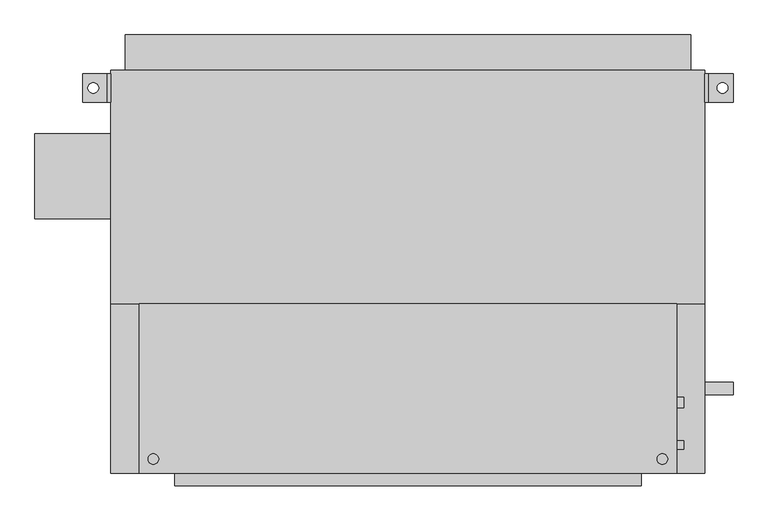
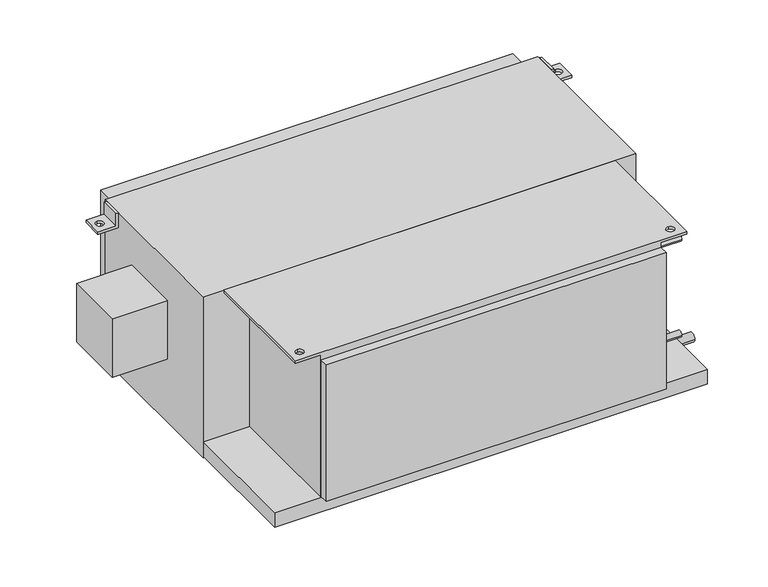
"""IFC4 building model written with IfcOpenShell, lengths in millimetres: proxy geometry, Concealed_High_Capacity_Horizontal_Fan_Coil_Unit_With_Plenum_-_42DCA_-_CARRIER_-_4-Pipe_RH_2022 : Size 14 - 277v/60Hz/1Ph - 6/2 Coil."""

from ifc_helpers import new_model, si_unit, point, frame, frame_2d, origin, place, context, project, spatial, polyline, circle_curve, trimmed, segment, composite_curve, outline, extrude, source, transform, mapped, element, save
from ifc_brep_helpers import plane_surface, revolved_surface, advanced_brep


def mechanical_equipment_ea229e45(model_context):
    return source(origin(), model_context, "Body", "SolidModel", [
        advanced_brep(
        [(-330.2, -85.725, 0.0), (-330.2, -390.525, 0.0), (635.0, -390.525, 0.0), (635.0, -85.725, 0.0), (-304.8, -374.65, 0.0), (-304.8, -355.6, 0.0), (609.6, -374.65, 0.0), (609.6, -355.6, 0.0), (571.5, -85.725, -377.825), (571.5, -390.525, -377.825), (-266.7, -390.525, -377.825), (-266.7, -85.725, -377.825), (-266.7, -85.725, -6.35), (-330.2, -85.725, -6.35), (635.0, -85.725, -6.35), (571.5, -85.725, -6.35), (-266.7, -390.525, -6.35), (571.5, -390.525, -6.35), (635.0, -390.525, -6.35), (-330.2, -390.525, -6.35), (-304.8, -355.6, -6.35), (-304.8, -374.65, -6.35), (609.6, -355.6, -6.35), (609.6, -374.65, -6.35)],
        [
            (0, 1),
            (1, 2),
            (2, 3),
            (3, 0),
            (4, 5, circle_curve(frame((-304.8, -365.125, 0.0), z_axis=(0.0, 0.0, -1.0), x_axis=(0.0, 1.0, 0.0)), 9.525)),
            (5, 4, circle_curve(frame((-304.8, -365.125, 0.0), z_axis=(0.0, 0.0, -1.0), x_axis=(0.0, 1.0, 0.0)), 9.525)),
            (6, 7, circle_curve(frame((609.6, -365.125, 0.0), z_axis=(0.0, 0.0, -1.0), x_axis=(0.0, 1.0, 0.0)), 9.525)),
            (7, 6, circle_curve(frame((609.6, -365.125, 0.0), z_axis=(0.0, 0.0, -1.0), x_axis=(0.0, 1.0, 0.0)), 9.525)),
            (8, 9),
            (9, 10),
            (10, 11),
            (11, 8),
            (11, 12),
            (12, 13),
            (13, 0),
            (3, 14),
            (14, 15),
            (15, 8),
            (10, 16),
            (16, 12),
            (9, 17),
            (17, 18),
            (18, 2),
            (1, 19),
            (19, 16),
            (15, 17),
            (19, 13),
            (20, 21, circle_curve(frame((-304.8, -365.125, -6.35), z_axis=(0.0, 0.0, 1.0), x_axis=(0.0, 1.0, 0.0)), 9.525)),
            (21, 20, circle_curve(frame((-304.8, -365.125, -6.35), z_axis=(0.0, 0.0, 1.0), x_axis=(0.0, 1.0, 0.0)), 9.525)),
            (14, 18),
            (22, 23, circle_curve(frame((609.6, -365.125, -6.35), z_axis=(0.0, 0.0, 1.0), x_axis=(0.0, 1.0, 0.0)), 9.525)),
            (23, 22, circle_curve(frame((609.6, -365.125, -6.35), z_axis=(0.0, 0.0, 1.0), x_axis=(0.0, 1.0, 0.0)), 9.525)),
            (4, 21),
            (20, 5),
            (6, 23),
            (22, 7),
        ],
        [
            plane_surface(frame((-266.7, -85.725, 0.0), z_axis=(0.0, 0.0, 1.0), x_axis=(-1.0, 0.0, 0.0))),
            plane_surface(frame((-266.7, -85.725, -377.825), z_axis=(0.0, 0.0, -1.0), x_axis=(1.0, 0.0, 0.0))),
            plane_surface(frame((571.5, -85.725, 0.0), z_axis=(0.0, 1.0, 0.0), x_axis=(0.0, 0.0, -1.0))),
            plane_surface(frame((-266.7, -85.725, 0.0), z_axis=(-1.0, 0.0, 0.0), x_axis=(0.0, 0.0, -1.0))),
            plane_surface(frame((-266.7, -390.525, 0.0), z_axis=(0.0, -1.0, 0.0), x_axis=(0.0, 0.0, -1.0))),
            plane_surface(frame((571.5, -390.525, 0.0), z_axis=(1.0, 0.0, 0.0), x_axis=(0.0, 0.0, -1.0))),
            plane_surface(frame((-330.2, -85.725, -6.35), z_axis=(0.0, 0.0, -1.0), x_axis=(0.0, 1.0, 0.0))),
            plane_surface(frame((-330.2, -85.725, 0.0), z_axis=(-1.0, 0.0, 0.0), x_axis=(0.0, 0.0, -1.0))),
            plane_surface(frame((635.0, -390.525, 0.0), z_axis=(1.0, 0.0, 0.0), x_axis=(0.0, 0.0, -1.0))),
            revolved_surface(polyline([(-304.8, -355.6, -6.35), (-304.8, -355.6, 0.0)]), (-304.8, -365.125, 0.0), (0.0, 0.0, -1.0)),
            revolved_surface(polyline([(609.6, -355.6, -6.35), (609.6, -355.6, 0.0)]), (609.6, -365.125, 0.0), (0.0, 0.0, -1.0)),
        ],
        [
            (0, [[1, 2, 3, 4], [5, 6], [7, 8]]),
            (1, [[9, 10, 11, 12]]),
            (2, [[-12, 13, 14, 15, -4, 16, 17, 18]]),
            (3, [[-11, 19, 20, -13]]),
            (4, [[-10, 21, 22, 23, -2, 24, 25, -19]]),
            (5, [[-9, -18, 26, -21]]),
            (6, [[-14, -20, -25, 27], [28, 29]]),
            (6, [[30, -22, -26, -17], [31, 32]]),
            (7, [[-27, -24, -1, -15]]),
            (8, [[-30, -16, -3, -23]]),
            (9, [[33, -28, 34, -5]]),
            (9, [[-33, -6, -34, -29]]),
            (10, [[35, -31, 36, -7]]),
            (10, [[-35, -8, -36, -32]]),
        ],
    ),
        advanced_brep(
        [(-381.0, 327.025, -38.1), (-431.8, 327.025, -38.1), (-431.8, 327.025, -31.75), (-387.35, 327.025, -31.75), (-387.35, 327.025, 0.0), (-381.0, 327.025, 0.0), (-381.0, 276.225, -38.1), (-381.0, 276.225, 0.0), (-387.35, 276.225, 0.0), (-387.35, 276.225, -31.75), (-431.8, 276.225, -31.75), (-431.8, 276.225, -38.1), (-412.75, 292.1, -38.1), (-412.75, 311.15, -38.1), (-412.75, 311.15, -31.75), (-412.75, 292.1, -31.75)],
        [
            (0, 1),
            (1, 2),
            (2, 3),
            (3, 4),
            (4, 5),
            (5, 0),
            (6, 7),
            (7, 8),
            (8, 9),
            (9, 10),
            (10, 11),
            (11, 6),
            (0, 6),
            (11, 1),
            (12, 13, circle_curve(frame((-412.75, 301.625, -38.1), z_axis=(0.0, 0.0, 1.0), x_axis=(0.0, -1.0, 0.0)), 9.525)),
            (13, 12, circle_curve(frame((-412.75, 301.625, -38.1), z_axis=(0.0, 0.0, 1.0), x_axis=(0.0, -1.0, 0.0)), 9.525)),
            (10, 2),
            (9, 3),
            (14, 15, circle_curve(frame((-412.75, 301.625, -31.75), z_axis=(0.0, 0.0, -1.0), x_axis=(0.0, -1.0, 0.0)), 9.525)),
            (15, 14, circle_curve(frame((-412.75, 301.625, -31.75), z_axis=(0.0, 0.0, -1.0), x_axis=(0.0, -1.0, 0.0)), 9.525)),
            (8, 4),
            (7, 5),
            (14, 13),
            (12, 15),
        ],
        [
            plane_surface(frame((-381.0, 327.025, -38.1), z_axis=(0.0, 1.0, 0.0), x_axis=(-1.0, 0.0, 0.0))),
            plane_surface(frame((-381.0, 276.225, -38.1), z_axis=(0.0, -1.0, 0.0), x_axis=(1.0, 0.0, 0.0))),
            plane_surface(frame((-381.0, 327.025, -38.1), z_axis=(0.0, 0.0, -1.0), x_axis=(0.0, -1.0, 0.0))),
            plane_surface(frame((-431.8, 327.025, -38.1), z_axis=(-1.0, 0.0, 0.0), x_axis=(0.0, -1.0, 0.0))),
            plane_surface(frame((-431.8, 327.025, -31.75), z_axis=(0.0, 0.0, 1.0), x_axis=(0.0, -1.0, 0.0))),
            plane_surface(frame((-387.35, 327.025, -31.75), z_axis=(-1.0, 0.0, 0.0), x_axis=(0.0, -1.0, 0.0))),
            plane_surface(frame((-387.35, 327.025, 0.0), z_axis=(0.0, 0.0, 1.0), x_axis=(0.0, -1.0, 0.0))),
            plane_surface(frame((-381.0, 327.025, 0.0), z_axis=(1.0, 0.0, 0.0), x_axis=(0.0, -1.0, 0.0))),
            revolved_surface(polyline([(-412.75, 292.1, -38.1), (-412.75, 292.1, -31.75)]), (-412.75, 301.625, -31.75), (0.0, 0.0, -1.0)),
        ],
        [
            (0, [[1, 2, 3, 4, 5, 6]]),
            (1, [[7, 8, 9, 10, 11, 12]]),
            (2, [[-1, 13, -12, 14], [15, 16]]),
            (3, [[-2, -14, -11, 17]]),
            (4, [[-3, -17, -10, 18], [19, 20]]),
            (5, [[-4, -18, -9, 21]]),
            (6, [[-5, -21, -8, 22]]),
            (7, [[-6, -22, -7, -13]]),
            (8, [[23, -15, 24, -19]]),
            (8, [[-23, -20, -24, -16]]),
        ],
    ),
        advanced_brep(
        [(685.8, 327.025, -38.1), (685.8, 327.025, 0.0), (692.15, 327.025, 0.0), (692.15, 327.025, -31.75), (736.6, 327.025, -31.75), (736.6, 327.025, -38.1), (685.8, 276.225, -38.1), (736.6, 276.225, -38.1), (736.6, 276.225, -31.75), (692.15, 276.225, -31.75), (692.15, 276.225, 0.0), (685.8, 276.225, 0.0), (717.55, 311.15, -31.75), (717.55, 292.1, -31.75), (717.55, 292.1, -38.1), (717.55, 311.15, -38.1)],
        [
            (0, 1),
            (1, 2),
            (2, 3),
            (3, 4),
            (4, 5),
            (5, 0),
            (6, 7),
            (7, 8),
            (8, 9),
            (9, 10),
            (10, 11),
            (11, 6),
            (0, 6),
            (11, 1),
            (10, 2),
            (9, 3),
            (8, 4),
            (12, 13, circle_curve(frame((717.55, 301.625, -31.75), z_axis=(0.0, 0.0, -1.0), x_axis=(0.0, -1.0, 0.0)), 9.525)),
            (13, 12, circle_curve(frame((717.55, 301.625, -31.75), z_axis=(0.0, 0.0, -1.0), x_axis=(0.0, -1.0, 0.0)), 9.525)),
            (7, 5),
            (14, 15, circle_curve(frame((717.55, 301.625, -38.1), z_axis=(0.0, 0.0, 1.0), x_axis=(0.0, -1.0, 0.0)), 9.525)),
            (15, 14, circle_curve(frame((717.55, 301.625, -38.1), z_axis=(0.0, 0.0, 1.0), x_axis=(0.0, -1.0, 0.0)), 9.525)),
            (12, 15),
            (14, 13),
        ],
        [
            plane_surface(frame((-381.0, 327.025, -38.1), z_axis=(0.0, 1.0, 0.0), x_axis=(-1.0, 0.0, 0.0))),
            plane_surface(frame((-381.0, 276.225, -38.1), z_axis=(0.0, -1.0, 0.0), x_axis=(1.0, 0.0, 0.0))),
            plane_surface(frame((685.8, 327.025, -38.1), z_axis=(-1.0, 0.0, 0.0), x_axis=(0.0, -1.0, 0.0))),
            plane_surface(frame((685.8, 327.025, 0.0), z_axis=(0.0, 0.0, 1.0), x_axis=(0.0, -1.0, 0.0))),
            plane_surface(frame((692.15, 327.025, 0.0), z_axis=(1.0, 0.0, 0.0), x_axis=(0.0, -1.0, 0.0))),
            plane_surface(frame((692.15, 327.025, -31.75), z_axis=(0.0, 0.0, 1.0), x_axis=(0.0, -1.0, 0.0))),
            plane_surface(frame((736.6, 327.025, -31.75), z_axis=(1.0, 0.0, 0.0), x_axis=(0.0, -1.0, 0.0))),
            plane_surface(frame((736.6, 327.025, -38.1), z_axis=(0.0, 0.0, -1.0), x_axis=(0.0, -1.0, 0.0))),
            revolved_surface(polyline([(717.55, 292.1, -38.1), (717.55, 292.1, -31.75)]), (717.55, 301.625, -31.75), (0.0, 0.0, -1.0)),
        ],
        [
            (0, [[1, 2, 3, 4, 5, 6]]),
            (1, [[7, 8, 9, 10, 11, 12]]),
            (2, [[-1, 13, -12, 14]]),
            (3, [[-2, -14, -11, 15]]),
            (4, [[-3, -15, -10, 16]]),
            (5, [[-4, -16, -9, 17], [18, 19]]),
            (6, [[-5, -17, -8, 20]]),
            (7, [[-6, -20, -7, -13], [21, 22]]),
            (8, [[23, -21, 24, -18]]),
            (8, [[-23, -19, -24, -22]]),
        ],
    ),
        extrude(outline(polyline([(-355.6, 396.875), (660.4, 396.875), (660.4, 333.375), (-355.6, 333.375), (-355.6, 396.875)])), frame((0.0, 0.0, -377.825), z_axis=(0.0, 0.0, 1.0), x_axis=(1.0, 0.0, 0.0)), (0.0, 0.0, 1.0), 355.6),
        extrude(outline(composite_curve([segment(trimmed(circle_curve(frame_2d((-263.525, -76.2)), 9.525), [point((-254.0, -76.2))], [point((-273.05, -76.2))], False, "CARTESIAN"), True, "CONTINUOUS"), segment(trimmed(circle_curve(frame_2d((-263.525, -76.2)), 9.525), [point((-273.05, -76.2))], [point((-254.0, -76.2))], False, "CARTESIAN"), True, "CONTINUOUS")], self_intersect=False)), frame((571.5, 0.0, 0.0), z_axis=(1.0, 0.0, 0.0), x_axis=(0.0, 1.0, 0.0)), (0.0, 0.0, 1.0), 76.2),
        extrude(outline(composite_curve([segment(trimmed(circle_curve(frame_2d((-263.525, -301.625)), 9.525), [point((-254.0, -301.625))], [point((-273.05, -301.625))], False, "CARTESIAN"), True, "CONTINUOUS"), segment(trimmed(circle_curve(frame_2d((-263.525, -301.625)), 9.525), [point((-273.05, -301.625))], [point((-254.0, -301.625))], False, "CARTESIAN"), True, "CONTINUOUS")], self_intersect=False)), frame((571.5, 0.0, 0.0), z_axis=(1.0, 0.0, 0.0), x_axis=(0.0, 1.0, 0.0)), (0.0, 0.0, 1.0), 76.2),
        extrude(outline(composite_curve([segment(trimmed(circle_curve(frame_2d((-339.725, -50.8)), 7.9375), [point((-331.7875, -50.8))], [point((-347.6625, -50.8))], False, "CARTESIAN"), True, "CONTINUOUS"), segment(trimmed(circle_curve(frame_2d((-339.725, -50.8)), 7.9375), [point((-347.6625, -50.8))], [point((-331.7875, -50.8))], False, "CARTESIAN"), True, "CONTINUOUS")], self_intersect=False)), frame((571.5, 0.0, 0.0), z_axis=(1.0, 0.0, 0.0), x_axis=(0.0, 1.0, 0.0)), (0.0, 0.0, 1.0), 76.2),
        extrude(outline(composite_curve([segment(trimmed(circle_curve(frame_2d((-339.725, -301.625)), 7.9375), [point((-331.7875, -301.625))], [point((-347.6625, -301.625))], False, "CARTESIAN"), True, "CONTINUOUS"), segment(trimmed(circle_curve(frame_2d((-339.725, -301.625)), 7.9375), [point((-347.6625, -301.625))], [point((-331.7875, -301.625))], False, "CARTESIAN"), True, "CONTINUOUS")], self_intersect=False)), frame((571.5, 0.0, 0.0), z_axis=(1.0, 0.0, 0.0), x_axis=(0.0, 1.0, 0.0)), (0.0, 0.0, 1.0), 76.2),
        extrude(outline(composite_curve([segment(trimmed(circle_curve(frame_2d((-238.125, -403.225)), 11.1125), [point((-227.0125, -403.225))], [point((-249.2375, -403.225))], False, "CARTESIAN"), True, "CONTINUOUS"), segment(trimmed(circle_curve(frame_2d((-238.125, -403.225)), 11.1125), [point((-249.2375, -403.225))], [point((-227.0125, -403.225))], False, "CARTESIAN"), True, "CONTINUOUS")], self_intersect=False)), frame((685.8, 0.0, 0.0), z_axis=(1.0, 0.0, 0.0), x_axis=(0.0, 1.0, 0.0)), (0.0, 0.0, 1.0), 50.8),
        extrude(outline(polyline([(-517.525, 66.675), (-517.525, 219.075), (-381.0, 219.075), (-381.0, 66.675), (-517.525, 66.675)])), frame((0.0, 0.0, -254.0), z_axis=(0.0, 0.0, 1.0), x_axis=(1.0, 0.0, 0.0)), (0.0, 0.0, 1.0), 152.4),
        extrude(outline(polyline([(571.5, -412.75), (-266.7, -412.75), (-266.7, -390.525), (571.5, -390.525), (571.5, -412.75)])), frame((0.0, 0.0, -374.65), z_axis=(0.0, 0.0, 1.0), x_axis=(1.0, 0.0, 0.0)), (0.0, 0.0, 1.0), 355.6),
        extrude(outline(polyline([(685.8, -85.725), (-381.0, -85.725), (-381.0, 333.375), (685.8, 333.375), (685.8, -85.725)])), frame((0.0, 0.0, -419.1), z_axis=(0.0, 0.0, 1.0), x_axis=(1.0, 0.0, 0.0)), (0.0, 0.0, 1.0), 419.1),
        extrude(outline(polyline([(685.8, -85.725), (685.8, -390.525), (-381.0, -390.525), (-381.0, -85.725), (685.8, -85.725)])), frame((0.0, 0.0, -415.925), z_axis=(0.0, 0.0, 1.0), x_axis=(1.0, 0.0, 0.0)), (0.0, 0.0, 1.0), 38.1),
    ])


if __name__ == "__main__":
    model = new_model("IFC4")
    model_context = context("Model", 3, world=origin())
    ifc_project = project(units=[si_unit("LENGTHUNIT", "METRE", prefix="MILLI")], contexts=[model_context])
    site = spatial("IfcSite", under=ifc_project)
    building = spatial("IfcBuilding", under=site)
    placement = place(None, origin())
    mechanical_equipment_shape = mechanical_equipment_ea229e45(model_context)
    element("IfcBuildingElementProxy", 1, Name="Concealed_High_Capacity_Horizontal_Fan_Coil_Unit_With_Plenum_-_42DCA_-_CARRIER_-_4-Pipe_RH_2022 : Size 14 - 277v/60Hz/1Ph - 6/2 Coil", ObjectType="Concealed_High_Capacity_Horizontal_Fan_Coil_Unit_With_Plenum_-_42DCA_-_CARRIER_-_4-Pipe_RH_2022 : Size 14 - 277v/60Hz/1Ph - 6/2 Coil", at=placement, inside=building, context=model_context, shape_type="MappedRepresentation", body=[
        mapped(mechanical_equipment_shape, transform((0.0, 0.0, 0.0), x_axis=(1.0, 0.0, 0.0), y_axis=(0.0, 1.0, 0.0), z_axis=(0.0, 0.0, 1.0))),
    ])
    save(model, "model.ifc")
